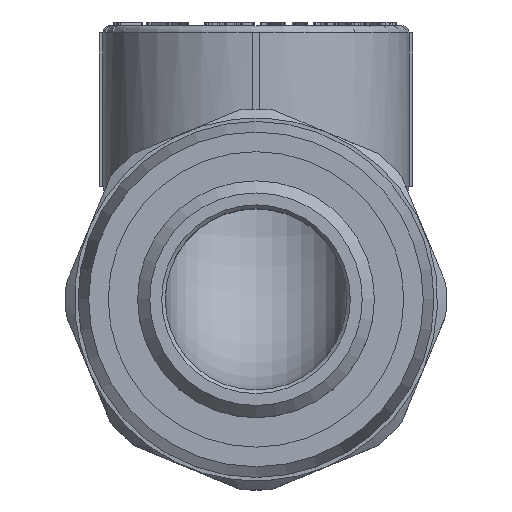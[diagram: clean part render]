
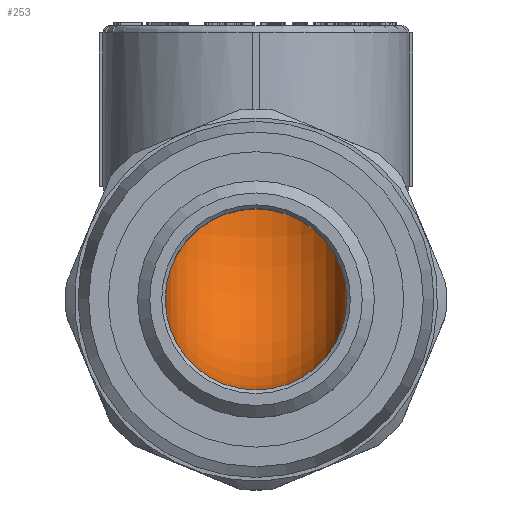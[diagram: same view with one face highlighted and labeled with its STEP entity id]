
A CAD part, top view. The second image highlights one B-rep face of the part: STEP entity #253.
In plain terms, the highlighted toroidal (fillet/blend) face has major radius 13.25 mm and minor radius 12.75 mm.
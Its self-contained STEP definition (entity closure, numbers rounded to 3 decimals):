
#253=ADVANCED_FACE('',(#1019,#1021),#1023,.F.);
#1019=FACE_OUTER_BOUND('',#1020,.T.);
#1020=EDGE_LOOP('',(#5934));
#1021=FACE_OUTER_BOUND('',#1022,.T.);
#1022=EDGE_LOOP('',(#5935));
#1023=TOROIDAL_SURFACE('',#1024,13.25,12.75);
#1024=AXIS2_PLACEMENT_3D('',#1025,#1026,#1027);
#1025=CARTESIAN_POINT('',(0.,13.25,13.25));
#1026=DIRECTION('',(-1.,0.,0.));
#1027=DIRECTION('',(0.,0.,-1.));
#5934=ORIENTED_EDGE('',*,*,#10641,.F.);
#5935=ORIENTED_EDGE('',*,*,#10637,.T.);
#10637=EDGE_CURVE('',#12500,#12500,#12501,.T.);
#10641=EDGE_CURVE('',#12508,#12508,#12509,.T.);
#12500=VERTEX_POINT('',#15623);
#12501=CIRCLE('',#15624,12.75);
#12508=VERTEX_POINT('',#15643);
#12509=CIRCLE('',#15644,12.75);
#15623=CARTESIAN_POINT('',(-12.75,0.,13.25));
#15624=AXIS2_PLACEMENT_3D('',#15625,#15626,#15627);
#15625=CARTESIAN_POINT('',(0.,0.,13.25));
#15626=DIRECTION('',(0.,0.,1.));
#15627=DIRECTION('',(-1.,0.,0.));
#15643=CARTESIAN_POINT('',(-12.75,13.25,0.));
#15644=AXIS2_PLACEMENT_3D('',#15645,#15646,#15647);
#15645=CARTESIAN_POINT('',(0.,13.25,0.));
#15646=DIRECTION('',(0.,-1.,0.));
#15647=DIRECTION('',(-1.,0.,0.));
